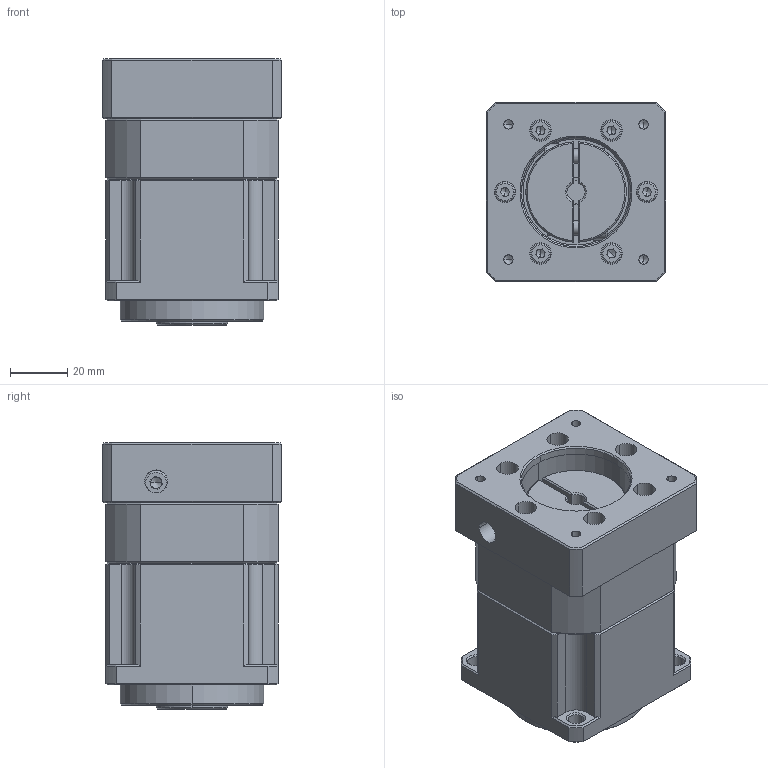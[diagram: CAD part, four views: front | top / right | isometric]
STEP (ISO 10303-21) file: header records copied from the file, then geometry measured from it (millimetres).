
FILE_DESCRIPTION (( 'STEP AP214' ), '1' );
FILE_NAME ('ZPB060-K16-L1-P1-6.35-38.1-47.14X47.14-M4.step', '2024-04-24T07:35:19', ( '' ), ( '' ), 'SwSTEP 2.0', 'SolidWorks 2016', '' );
FILE_SCHEMA (( 'AUTOMOTIVE_DESIGN' ));
Length unit declared in the file: millimetre
Products named in the file (1): ZPB060-K16-L1-P1-6.35-38.1-47.14X47.14-M4
Bounding box: 62.5 x 62.5 x 93 mm (x, y, z)
Volume: 255347.6 mm3; surface area: 64634.5 mm2
Topology: 12 solids, 21 shells, 1627 faces, 4332 edges, 2798 vertices
Faces by surface type: plane 898, bspline 315, cylinder 236, cone 162, torus 16
Entity records: 81333 total; most frequent: CARTESIAN_POINT 24742, ORIENTED_EDGE 8560, DIRECTION 6915, EDGE_CURVE 4280, VECTOR 2805, LINE 2805, VERTEX_POINT 2798, AXIS2_PLACEMENT_3D 2055
